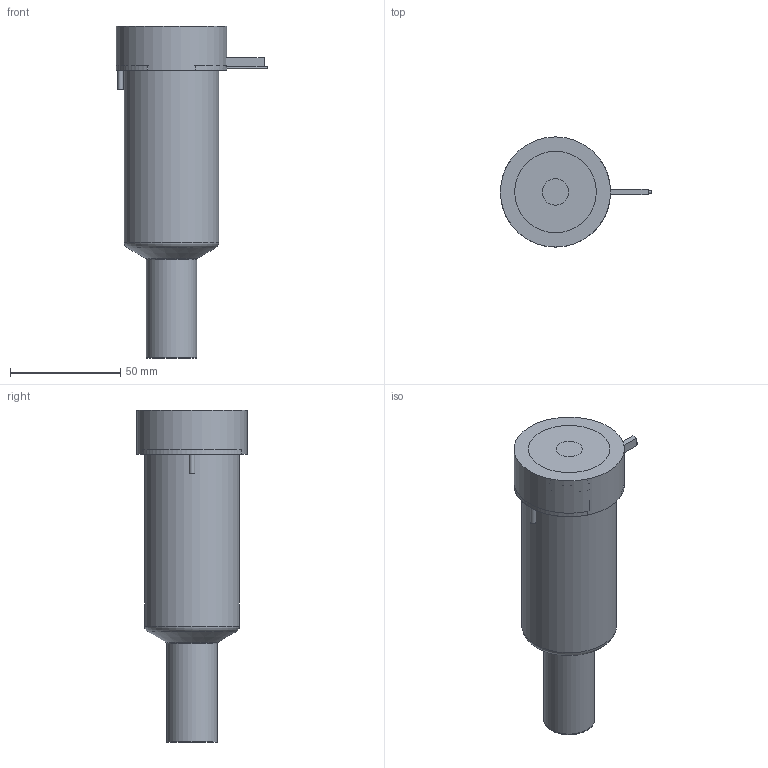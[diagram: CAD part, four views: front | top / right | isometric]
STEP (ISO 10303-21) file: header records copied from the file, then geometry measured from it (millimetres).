
FILE_DESCRIPTION(/* description */ (''),/* implementation_level */ '2;1');
FILE_NAME(/* name */ 'BXYCN27095N3U_200C_a',/* time_stamp */ '2016-02-22T15:06:51+13:00',/* author */ (''),/* organization */ (''),/* preprocessor_version */ 'ST-DEVELOPER v9',/* originating_system */ 'UGS - NX 4.0',/* authorisation */ '');
FILE_SCHEMA (('CONFIG_CONTROL_DESIGN'));
Length unit declared in the file: millimetre
Products named in the file (1): MattBE97x083
Bounding box: 68.6 x 50 x 150.55 mm (x, y, z)
Volume: 319690.9 mm3; surface area: 43630.6 mm2
Topology: 2 solids, 2 shells, 66 faces, 149 edges, 97 vertices
Faces by surface type: plane 29, cylinder 21, torus 8, cone 6, bspline 1, sphere 1
Full cylindrical faces by diameter (mm): 1 x2, 2.5 x2, 12 x2, 22.61 x1, 22.995 x2, 27.5 x1, 38.1 x1, 43 x1, 50 x1
Entity records: 2056 total; most frequent: CARTESIAN_POINT 588, DIRECTION 299, ORIENTED_EDGE 242, AXIS2_PLACEMENT_3D 128, EDGE_CURVE 121, EDGE_LOOP 100, VERTEX_POINT 91, ADVANCED_FACE 66
